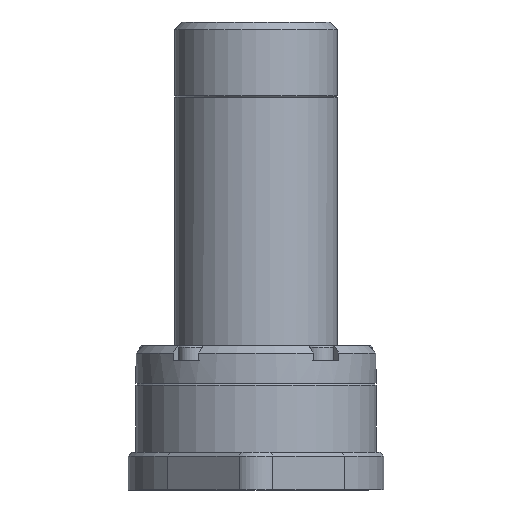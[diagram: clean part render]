
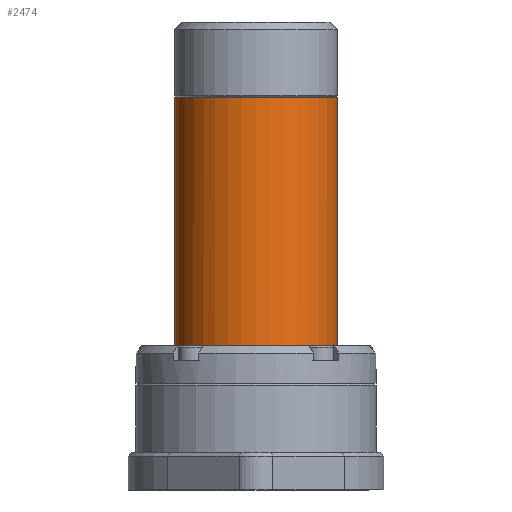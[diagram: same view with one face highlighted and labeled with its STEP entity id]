
A CAD part, front view. The second image highlights one B-rep face of the part: STEP entity #2474.
In plain terms, the highlighted cylindrical face has radius 10.85 mm (diameter 21.7 mm), a full revolution.
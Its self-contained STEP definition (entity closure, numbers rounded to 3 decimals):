
#193 = CARTESIAN_POINT ( 'NONE',  ( -2., 10.664, -3. ) ) ;
#237 = DIRECTION ( 'NONE',  ( -1., 0., 0. ) ) ;
#279 = CARTESIAN_POINT ( 'NONE',  ( -1.598, 10.733, 0.031 ) ) ;
#291 = VERTEX_POINT ( 'NONE', #3168 ) ;
#339 = CARTESIAN_POINT ( 'NONE',  ( -0.645, 10.831, 0.698 ) ) ;
#402 = DIRECTION ( 'NONE',  ( 0., 0., -1. ) ) ;
#416 = VECTOR ( 'NONE', #5208, 1000. ) ;
#472 = FACE_OUTER_BOUND ( 'NONE', #5145, .T. ) ;
#509 = ORIENTED_EDGE ( 'NONE', *, *, #886, .F. ) ;
#609 = CARTESIAN_POINT ( 'NONE',  ( 0., 0., -3. ) ) ;
#727 = ORIENTED_EDGE ( 'NONE', *, *, #3881, .T. ) ;
#818 = ORIENTED_EDGE ( 'NONE', *, *, #1240, .F. ) ;
#837 = CARTESIAN_POINT ( 'NONE',  ( 1.987, 10.667, -0.938 ) ) ;
#886 = EDGE_CURVE ( 'NONE', #3352, #4282, #2181, .T. ) ;
#922 = CARTESIAN_POINT ( 'NONE',  ( 10.85, 0., 30. ) ) ;
#1061 = DIRECTION ( 'NONE',  ( 0., 0., 1. ) ) ;
#1139 = FACE_OUTER_BOUND ( 'NONE', #1613, .T. ) ;
#1240 = EDGE_CURVE ( 'NONE', #4282, #2229, #3093, .T. ) ;
#1340 = LINE ( 'NONE', #2713, #5293 ) ;
#1410 = CARTESIAN_POINT ( 'NONE',  ( -2., 10.664, -1.2 ) ) ;
#1490 = CARTESIAN_POINT ( 'NONE',  ( 0., 0., 30. ) ) ;
#1531 = CARTESIAN_POINT ( 'NONE',  ( 2., 10.664, -1.2 ) ) ;
#1613 = EDGE_LOOP ( 'NONE', ( #3544 ) ) ;
#1690 = CARTESIAN_POINT ( 'NONE',  ( -0.262, 10.848, 0.787 ) ) ;
#1751 = CARTESIAN_POINT ( 'NONE',  ( -1.947, 10.674, -0.672 ) ) ;
#1776 = CARTESIAN_POINT ( 'NONE',  ( 0., 10.85, 0.8 ) ) ;
#1782 = AXIS2_PLACEMENT_3D ( 'NONE', #1490, #1061, #4887 ) ;
#1986 = EDGE_CURVE ( 'NONE', #3583, #291, #6110, .T. ) ;
#2112 = CARTESIAN_POINT ( 'NONE',  ( 2., 10.664, -1.2 ) ) ;
#2181 = CIRCLE ( 'NONE', #4552, 10.85 ) ;
#2182 = CARTESIAN_POINT ( 'NONE',  ( -0.132, 10.85, 0.8 ) ) ;
#2188 = CARTESIAN_POINT ( 'NONE',  ( 0.265, 10.85, 0.8 ) ) ;
#2224 = CARTESIAN_POINT ( 'NONE',  ( -2., 10.664, -0.935 ) ) ;
#2229 = VERTEX_POINT ( 'NONE', #1410 ) ;
#2474 = ADVANCED_FACE ( 'NONE', ( #1139, #472 ), #4862, .T. ) ;
#2634 = CARTESIAN_POINT ( 'NONE',  ( 0., 0., 30. ) ) ;
#2703 = CARTESIAN_POINT ( 'NONE',  ( -0.518, 10.838, 0.736 ) ) ;
#2712 = CARTESIAN_POINT ( 'NONE',  ( 1.008, 10.806, 0.547 ) ) ;
#2713 = CARTESIAN_POINT ( 'NONE',  ( 2., 10.664, 30. ) ) ;
#2727 = CARTESIAN_POINT ( 'NONE',  ( 1.231, 10.782, 0.398 ) ) ;
#2822 = VERTEX_POINT ( 'NONE', #922 ) ;
#2879 = CARTESIAN_POINT ( 'NONE',  ( -2., 10.664, 30. ) ) ;
#2917 = AXIS2_PLACEMENT_3D ( 'NONE', #2634, #5904, #237 ) ;
#3093 = LINE ( 'NONE', #2879, #416 ) ;
#3117 = CIRCLE ( 'NONE', #1782, 10.85 ) ;
#3149 = CARTESIAN_POINT ( 'NONE',  ( 1.507, 10.745, 0.122 ) ) ;
#3168 = CARTESIAN_POINT ( 'NONE',  ( 0., 10.85, 0.8 ) ) ;
#3249 = EDGE_CURVE ( 'NONE', #3583, #3352, #1340, .T. ) ;
#3352 = VERTEX_POINT ( 'NONE', #6032 ) ;
#3544 = ORIENTED_EDGE ( 'NONE', *, *, #5380, .F. ) ;
#3583 = VERTEX_POINT ( 'NONE', #1531 ) ;
#3648 = CARTESIAN_POINT ( 'NONE',  ( 0., 10.85, 0.8 ) ) ;
#3668 = CARTESIAN_POINT ( 'NONE',  ( -1.002, 10.804, 0.536 ) ) ;
#3827 = ORIENTED_EDGE ( 'NONE', *, *, #3249, .F. ) ;
#3881 = EDGE_CURVE ( 'NONE', #291, #2229, #4727, .T. ) ;
#4147 = CARTESIAN_POINT ( 'NONE',  ( -1.322, 10.77, 0.307 ) ) ;
#4154 = CARTESIAN_POINT ( 'NONE',  ( 1.898, 10.683, -0.555 ) ) ;
#4282 = VERTEX_POINT ( 'NONE', #193 ) ;
#4552 = AXIS2_PLACEMENT_3D ( 'NONE', #609, #4873, #5356 ) ;
#4600 = CARTESIAN_POINT ( 'NONE',  ( -1.747, 10.709, -0.192 ) ) ;
#4727 = B_SPLINE_CURVE_WITH_KNOTS ( 'NONE', 3,
 ( #3648, #2182, #1690, #2703, #339, #5483, #3668, #5099, #4147, #279, #4600, #1751, #2224, #5562 ),
 .UNSPECIFIED., .F., .F.,
 ( 4, 2, 2, 2, 2, 2, 4 ),
 ( 0., 0., 0.001, 0.001, 0.002, 0.002, 0.003 ),
 .UNSPECIFIED. ) ;
#4862 = CYLINDRICAL_SURFACE ( 'NONE', #2917, 10.85 ) ;
#4873 = DIRECTION ( 'NONE',  ( 0., 0., -1. ) ) ;
#4887 = DIRECTION ( 'NONE',  ( 1., 0., 0. ) ) ;
#5042 = CARTESIAN_POINT ( 'NONE',  ( 1.736, 10.711, -0.198 ) ) ;
#5099 = CARTESIAN_POINT ( 'NONE',  ( -1.219, 10.782, 0.391 ) ) ;
#5102 = CARTESIAN_POINT ( 'NONE',  ( 0.528, 10.84, 0.747 ) ) ;
#5145 = EDGE_LOOP ( 'NONE', ( #818, #509, #3827, #5805, #727 ) ) ;
#5208 = DIRECTION ( 'NONE',  ( 0., 0., 1. ) ) ;
#5293 = VECTOR ( 'NONE', #402, 1000. ) ;
#5356 = DIRECTION ( 'NONE',  ( 0., 1., 0. ) ) ;
#5380 = EDGE_CURVE ( 'NONE', #2822, #2822, #3117, .T. ) ;
#5410 = CARTESIAN_POINT ( 'NONE',  ( 2., 10.664, -1.068 ) ) ;
#5483 = CARTESIAN_POINT ( 'NONE',  ( -0.887, 10.814, 0.597 ) ) ;
#5530 = CARTESIAN_POINT ( 'NONE',  ( 1.797, 10.7, -0.313 ) ) ;
#5562 = CARTESIAN_POINT ( 'NONE',  ( -2., 10.664, -1.2 ) ) ;
#5805 = ORIENTED_EDGE ( 'NONE', *, *, #1986, .T. ) ;
#5904 = DIRECTION ( 'NONE',  ( 0., 0., -1. ) ) ;
#5963 = CARTESIAN_POINT ( 'NONE',  ( 1.936, 10.676, -0.682 ) ) ;
#6032 = CARTESIAN_POINT ( 'NONE',  ( 2., 10.664, -3. ) ) ;
#6050 = CARTESIAN_POINT ( 'NONE',  ( 1.591, 10.733, 0.019 ) ) ;
#6110 = B_SPLINE_CURVE_WITH_KNOTS ( 'NONE', 3,
 ( #2112, #5410, #837, #5963, #4154, #5530, #5042, #6050, #3149, #2727, #2712, #5102, #2188, #1776 ),
 .UNSPECIFIED., .F., .F.,
 ( 4, 2, 2, 2, 2, 2, 4 ),
 ( 0., 0., 0.001, 0.001, 0.002, 0.002, 0.003 ),
 .UNSPECIFIED. ) ;
